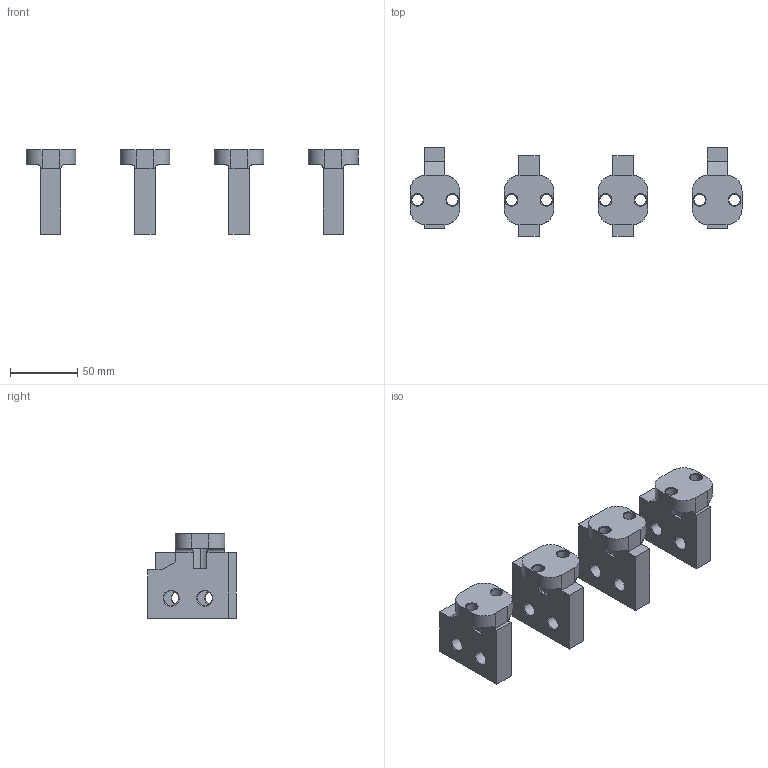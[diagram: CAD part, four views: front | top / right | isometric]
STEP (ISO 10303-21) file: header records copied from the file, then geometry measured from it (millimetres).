
FILE_DESCRIPTION (( 'STEP AP203' ), '1' );
FILE_NAME ('Âûâîäû âåðòèê. âåðõíèå äëÿ ñòàöèîíàðíîãî íà 1250-1600À 4P.STEP', '2024-06-25T08:35:57', ( '' ), ( '' ), 'SwSTEP 2.0', 'SolidWorks 2018', '' );
FILE_SCHEMA (( 'CONFIG_CONTROL_DESIGN' ));
Length unit declared in the file: millimetre
Products named in the file (1): Âûâîäû âåðòèê. âåðõíèå äëÿ ñòàöèîíàðíîãî íà 1250-1600À 4P
Bounding box: 247 x 66 x 63 mm (x, y, z)
Volume: 212992.7 mm3; surface area: 51825.8 mm2
Topology: 4 solids, 4 shells, 206 faces, 518 edges, 320 vertices
Faces by surface type: cylinder 76, plane 66, cone 64
Entity records: 6745 total; most frequent: CARTESIAN_POINT 1601, DIRECTION 1092, ORIENTED_EDGE 1036, EDGE_CURVE 518, AXIS2_PLACEMENT_3D 403, VERTEX_POINT 320, LINE 286, VECTOR 286
